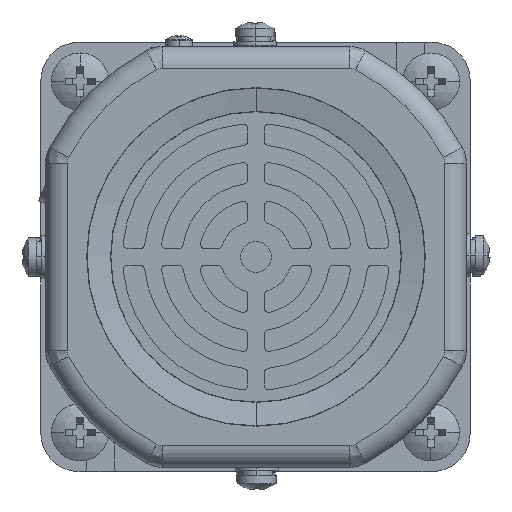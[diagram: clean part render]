
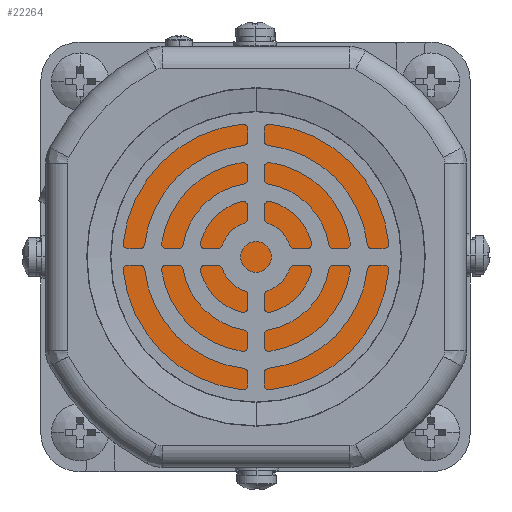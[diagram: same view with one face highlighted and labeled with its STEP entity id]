
A CAD part, left-side view. The second image highlights one B-rep face of the part: STEP entity #22264.
In plain terms, the highlighted planar face has unit normal (-1, 0, 0).
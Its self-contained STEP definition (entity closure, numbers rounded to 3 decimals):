
#133 = ORIENTED_EDGE ( 'NONE', *, *, #46563, .T. ) ;
#1291 = CARTESIAN_POINT ( 'NONE',  ( 2487.292, -775.254, 0. ) ) ;
#2297 = DIRECTION ( 'NONE',  ( 0., 1., 0. ) ) ;
#3835 = CARTESIAN_POINT ( 'NONE',  ( 2487.292, -736.854, 0. ) ) ;
#5939 = PLANE ( 'NONE',  #14435 ) ;
#8989 = CARTESIAN_POINT ( 'NONE',  ( 2487.292, -775.254, 0. ) ) ;
#11294 = EDGE_LOOP ( 'NONE', ( #26850, #133 ) ) ;
#13122 = CARTESIAN_POINT ( 'NONE',  ( 2487.292, -813.654, 0. ) ) ;
#14435 = AXIS2_PLACEMENT_3D ( 'NONE', #20823, #35697, #2297 ) ;
#15973 = AXIS2_PLACEMENT_3D ( 'NONE', #8989, #23880, #38762 ) ;
#16145 = DIRECTION ( 'NONE',  ( -1., 0., 0. ) ) ;
#19771 = AXIS2_PLACEMENT_3D ( 'NONE', #1291, #16145, #31028 ) ;
#20823 = CARTESIAN_POINT ( 'NONE',  ( 2487.292, -775.254, 0. ) ) ;
#22264 = ADVANCED_FACE ( 'NONE', ( #39369 ), #5939, .F. ) ;
#23880 = DIRECTION ( 'NONE',  ( -1., 0., 0. ) ) ;
#26850 = ORIENTED_EDGE ( 'NONE', *, *, #35676, .T. ) ;
#28541 = VERTEX_POINT ( 'NONE', #13122 ) ;
#31028 = DIRECTION ( 'NONE',  ( 0., -1., 0. ) ) ;
#35676 = EDGE_CURVE ( 'NONE', #28541, #38409, #37031, .T. ) ;
#35697 = DIRECTION ( 'NONE',  ( 1., 0., 0. ) ) ;
#37031 = CIRCLE ( 'NONE', #15973, 38.4 ) ;
#38409 = VERTEX_POINT ( 'NONE', #3835 ) ;
#38762 = DIRECTION ( 'NONE',  ( 0., -1., 0. ) ) ;
#39369 = FACE_OUTER_BOUND ( 'NONE', #11294, .T. ) ;
#40825 = CIRCLE ( 'NONE', #19771, 38.4 ) ;
#46563 = EDGE_CURVE ( 'NONE', #38409, #28541, #40825, .T. ) ;
